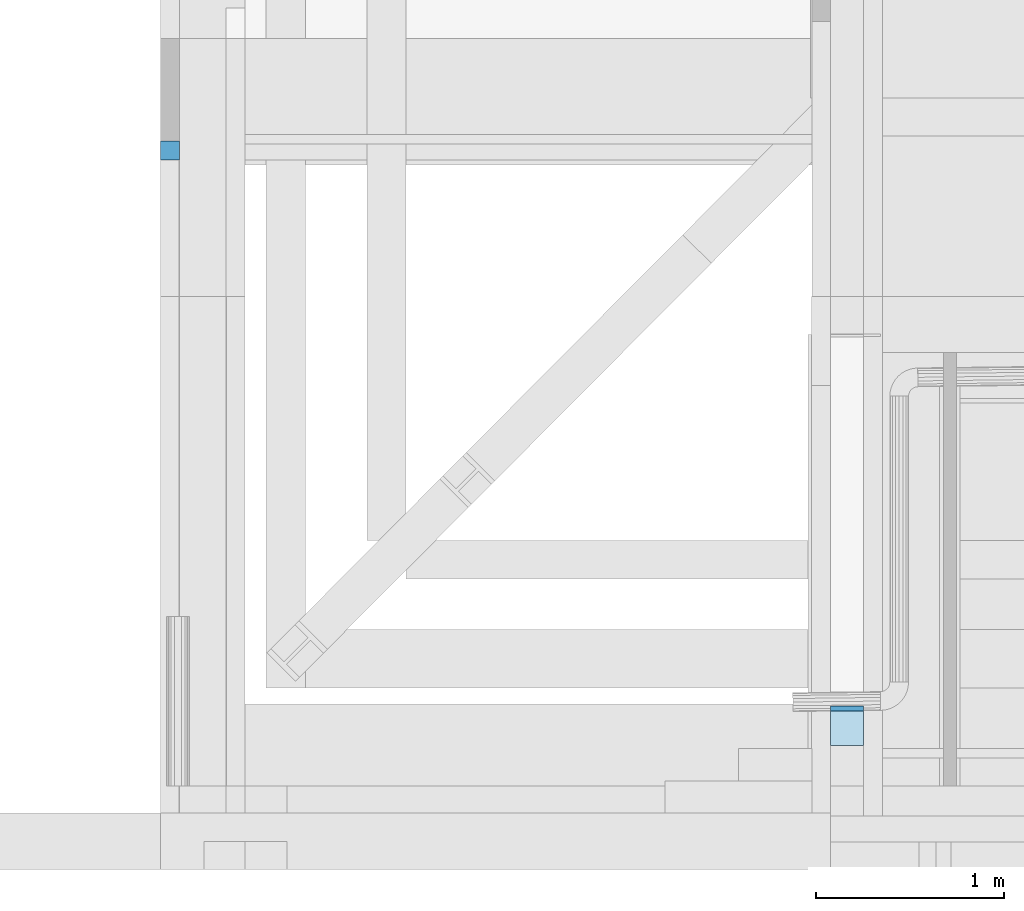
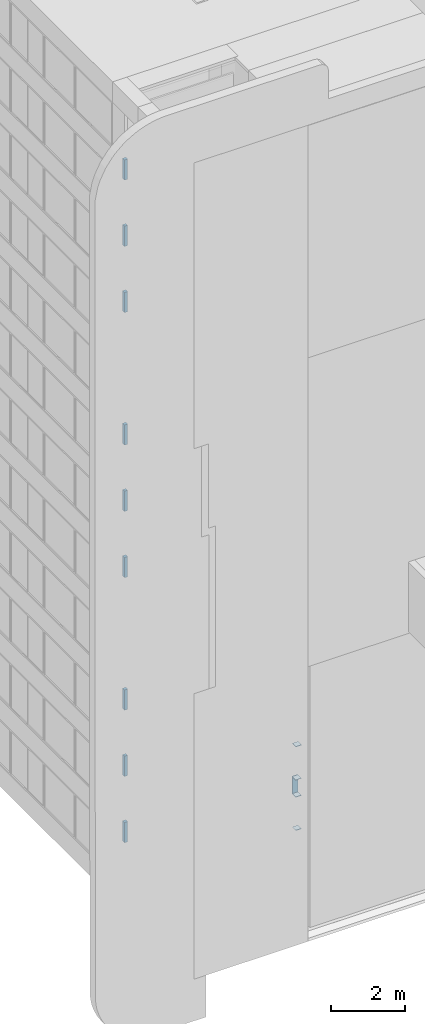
# One storey, part 299 of 583: 14 slabs.
"""IFC2X3 building model written with IfcOpenShell, lengths in metres."""

from ifc_helpers import new_model, entity, si_unit, converted_unit, derived_unit, money_unit, direction, frame, origin_with_axes, place, context, subcontext, project, spatial, faceted_brep, material, type_object, element, save


model = new_model("IFC2X3")

# Units and contexts
model_context = context("Model", 3, precision=1e-05, world=origin_with_axes(), true_north=direction((0.0, 1.0)))
body_context = subcontext(model_context, "Body", "Model", "MODEL_VIEW", scale=1.0)
ifc_project = project(units=[si_unit("LENGTHUNIT", "METRE"), si_unit("AREAUNIT", "SQUARE_METRE"), si_unit("VOLUMEUNIT", "CUBIC_METRE"), si_unit("ABSORBEDDOSEUNIT", "GRAY"), si_unit("AMOUNTOFSUBSTANCEUNIT", "MOLE"), si_unit("DOSEEQUIVALENTUNIT", "SIEVERT"), si_unit("ELECTRICCAPACITANCEUNIT", "FARAD"), si_unit("ELECTRICCHARGEUNIT", "COULOMB"), si_unit("ELECTRICCONDUCTANCEUNIT", "SIEMENS"), si_unit("ELECTRICCURRENTUNIT", "AMPERE"), si_unit("ELECTRICRESISTANCEUNIT", "OHM"), si_unit("ELECTRICVOLTAGEUNIT", "VOLT"), si_unit("ENERGYUNIT", "JOULE"), si_unit("FORCEUNIT", "NEWTON"), si_unit("FREQUENCYUNIT", "HERTZ"), si_unit("ILLUMINANCEUNIT", "LUX"), si_unit("INDUCTANCEUNIT", "HENRY"), si_unit("LUMINOUSFLUXUNIT", "LUMEN"), si_unit("LUMINOUSINTENSITYUNIT", "CANDELA"), si_unit("MAGNETICFLUXDENSITYUNIT", "TESLA"), si_unit("MAGNETICFLUXUNIT", "WEBER"), si_unit("MASSUNIT", "GRAM"), converted_unit("PLANEANGLEUNIT", "degree", entity("IfcReal", 0.0174532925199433), si_unit("PLANEANGLEUNIT", "RADIAN"), dimensions=[0, 0, 0, 0, 0, 0, 0]), si_unit("POWERUNIT", "WATT"), si_unit("PRESSUREUNIT", "PASCAL"), si_unit("RADIOACTIVITYUNIT", "BECQUEREL"), si_unit("SOLIDANGLEUNIT", "STERADIAN"), si_unit("THERMODYNAMICTEMPERATUREUNIT", "KELVIN"), si_unit("TIMEUNIT", "SECOND"), derived_unit("ACCELERATIONUNIT", [(si_unit("LENGTHUNIT", "METRE"), 1), (si_unit("TIMEUNIT", "SECOND"), -2)]), derived_unit("ANGULARVELOCITYUNIT", [(converted_unit("PLANEANGLEUNIT", "degree", entity("IfcReal", 0.0174532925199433), si_unit("PLANEANGLEUNIT", "RADIAN"), dimensions=[0, 0, 0, 0, 0, 0, 0]), 1), (si_unit("TIMEUNIT", "SECOND"), -1)]), derived_unit("CURVATUREUNIT", [(converted_unit("PLANEANGLEUNIT", "degree", entity("IfcReal", 0.0174532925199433), si_unit("PLANEANGLEUNIT", "RADIAN"), dimensions=[0, 0, 0, 0, 0, 0, 0]), 1), (si_unit("LENGTHUNIT", "METRE"), -1)]), derived_unit("DYNAMICVISCOSITYUNIT", [(si_unit("PRESSUREUNIT", "PASCAL"), 1), (si_unit("TIMEUNIT", "SECOND"), 1)]), derived_unit("HEATFLUXDENSITYUNIT", [(si_unit("POWERUNIT", "WATT"), 1), (si_unit("LENGTHUNIT", "METRE"), -2)]), derived_unit("HEATINGVALUEUNIT", [(si_unit("ENERGYUNIT", "JOULE"), 1), (si_unit("MASSUNIT", "GRAM"), -1)]), derived_unit("INTEGERCOUNTRATEUNIT", [(si_unit("TIMEUNIT", "SECOND"), -1)]), derived_unit("IONCONCENTRATIONUNIT", [(si_unit("MASSUNIT", "GRAM"), 1), (si_unit("VOLUMEUNIT", "CUBIC_METRE"), -1)]), derived_unit("ISOTHERMALMOISTURECAPACITYUNIT", [(si_unit("VOLUMEUNIT", "CUBIC_METRE"), 1), (si_unit("MASSUNIT", "GRAM"), -1)]), derived_unit("KINEMATICVISCOSITYUNIT", [(si_unit("AREAUNIT", "SQUARE_METRE"), 1), (si_unit("TIMEUNIT", "SECOND"), -1)]), derived_unit("LINEARFORCEUNIT", [(si_unit("FORCEUNIT", "NEWTON"), 1), (si_unit("LENGTHUNIT", "METRE"), -1)]), derived_unit("LINEARMOMENTUNIT", [(si_unit("FORCEUNIT", "NEWTON"), 1), (si_unit("LENGTHUNIT", "METRE"), -1)]), derived_unit("LINEARSTIFFNESSUNIT", [(si_unit("FORCEUNIT", "NEWTON"), 1), (si_unit("LENGTHUNIT", "METRE"), -1)]), derived_unit("LINEARVELOCITYUNIT", [(si_unit("LENGTHUNIT", "METRE"), 1), (si_unit("TIMEUNIT", "SECOND"), -1)]), derived_unit("LUMINOUSINTENSITYDISTRIBUTIONUNIT", [(si_unit("LUMINOUSINTENSITYUNIT", "CANDELA"), 1), (si_unit("LUMINOUSFLUXUNIT", "LUMEN"), -1)]), derived_unit("MASSDENSITYUNIT", [(si_unit("MASSUNIT", "GRAM"), 1), (si_unit("VOLUMEUNIT", "CUBIC_METRE"), -1)]), derived_unit("MASSFLOWRATEUNIT", [(si_unit("MASSUNIT", "GRAM"), 1), (si_unit("TIMEUNIT", "SECOND"), -1)]), derived_unit("MASSPERLENGTHUNIT", [(si_unit("MASSUNIT", "GRAM"), 1), (si_unit("LENGTHUNIT", "METRE"), -1)]), derived_unit("MODULUSOFELASTICITYUNIT", [(si_unit("FORCEUNIT", "NEWTON"), 1), (si_unit("AREAUNIT", "SQUARE_METRE"), -1)]), derived_unit("MODULUSOFLINEARSUBGRADEREACTIONUNIT", [(si_unit("FORCEUNIT", "NEWTON"), 1), (si_unit("LENGTHUNIT", "METRE"), -2)]), derived_unit("MODULUSOFROTATIONALSUBGRADEREACTIONUNIT", [(si_unit("FORCEUNIT", "NEWTON"), 1), (si_unit("LENGTHUNIT", "METRE"), 1)]), derived_unit("MODULUSOFSUBGRADEREACTIONUNIT", [(si_unit("FORCEUNIT", "NEWTON"), 1), (si_unit("VOLUMEUNIT", "CUBIC_METRE"), -1)]), derived_unit("MOISTUREDIFFUSIVITYUNIT", [(si_unit("VOLUMEUNIT", "CUBIC_METRE"), 1), (si_unit("TIMEUNIT", "SECOND"), -1)]), derived_unit("MOLECULARWEIGHTUNIT", [(si_unit("MASSUNIT", "GRAM"), 1), (si_unit("AMOUNTOFSUBSTANCEUNIT", "MOLE"), -1)]), derived_unit("PLANARFORCEUNIT", [(si_unit("FORCEUNIT", "NEWTON"), 1), (si_unit("LENGTHUNIT", "METRE"), -2)]), derived_unit("ROTATIONALFREQUENCYUNIT", [(si_unit("TIMEUNIT", "SECOND"), -1)]), derived_unit("ROTATIONALMASSUNIT", [(si_unit("MASSUNIT", "GRAM"), 1), (si_unit("LENGTHUNIT", "METRE"), 2)]), derived_unit("ROTATIONALSTIFFNESSUNIT", [(si_unit("FORCEUNIT", "NEWTON"), 1), (si_unit("LENGTHUNIT", "METRE"), 1), (converted_unit("PLANEANGLEUNIT", "degree", entity("IfcReal", 0.0174532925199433), si_unit("PLANEANGLEUNIT", "RADIAN"), dimensions=[0, 0, 0, 0, 0, 0, 0]), -1)]), derived_unit("SECTIONAREAINTEGRALUNIT", [(si_unit("LENGTHUNIT", "METRE"), 5)]), derived_unit("SECTIONMODULUSUNIT", [(si_unit("LENGTHUNIT", "METRE"), 3)]), derived_unit("SHEARMODULUSUNIT", [(si_unit("FORCEUNIT", "NEWTON"), 1), (si_unit("AREAUNIT", "SQUARE_METRE"), -1)]), derived_unit("SOUNDPOWERUNIT", [(si_unit("ENERGYUNIT", "JOULE"), 1), (si_unit("TIMEUNIT", "SECOND"), -1)]), derived_unit("SPECIFICHEATCAPACITYUNIT", [(si_unit("FORCEUNIT", "NEWTON"), 1), (si_unit("MASSUNIT", "GRAM"), -1), (si_unit("THERMODYNAMICTEMPERATUREUNIT", "KELVIN"), -1)]), derived_unit("TEMPERATUREGRADIENTUNIT", [(si_unit("THERMODYNAMICTEMPERATUREUNIT", "KELVIN"), 1), (si_unit("LENGTHUNIT", "METRE"), -1)]), derived_unit("THERMALADMITTANCEUNIT", [(si_unit("POWERUNIT", "WATT"), 1), (si_unit("AREAUNIT", "SQUARE_METRE"), -1), (si_unit("THERMODYNAMICTEMPERATUREUNIT", "KELVIN"), -1)]), derived_unit("THERMALCONDUCTANCEUNIT", [(si_unit("POWERUNIT", "WATT"), 1), (si_unit("LENGTHUNIT", "METRE"), -1), (si_unit("THERMODYNAMICTEMPERATUREUNIT", "KELVIN"), -1)]), derived_unit("THERMALEXPANSIONCOEFFICIENTUNIT", [(si_unit("THERMODYNAMICTEMPERATUREUNIT", "KELVIN"), -1)]), derived_unit("THERMALRESISTANCEUNIT", [(si_unit("AREAUNIT", "SQUARE_METRE"), 1), (si_unit("POWERUNIT", "WATT"), -1)]), derived_unit("THERMALTRANSMITTANCEUNIT", [(si_unit("POWERUNIT", "WATT"), 1), (si_unit("AREAUNIT", "SQUARE_METRE"), -1), (si_unit("THERMODYNAMICTEMPERATUREUNIT", "KELVIN"), -1)]), derived_unit("TORQUEUNIT", [(si_unit("FORCEUNIT", "NEWTON"), 1), (si_unit("LENGTHUNIT", "METRE"), 1)]), derived_unit("VAPORPERMEABILITYUNIT", [(si_unit("MASSUNIT", "GRAM"), 1), (si_unit("TIMEUNIT", "SECOND"), -1)]), derived_unit("VOLUMETRICFLOWRATEUNIT", [(si_unit("VOLUMEUNIT", "CUBIC_METRE"), 1), (si_unit("TIMEUNIT", "SECOND"), -1)]), derived_unit("WARPINGCONSTANTUNIT", [(si_unit("LENGTHUNIT", "METRE"), 6)]), derived_unit("WARPINGMOMENTUNIT", [(si_unit("FORCEUNIT", "NEWTON"), 1), (si_unit("LENGTHUNIT", "METRE"), 2)]), money_unit("GBP")], contexts=[model_context])

# Site, building, storey
site_placement = place(None, origin_with_axes())
site = spatial("IfcSite", under=ifc_project, at=site_placement, Name="Site", CompositionType="ELEMENT")
building_placement = place(site_placement, origin_with_axes())
building = spatial("IfcBuilding", under=site, at=building_placement, Name="Building01", CompositionType="ELEMENT")
storey_placement = place(building_placement, frame((0.0, 0.0, 20.78), z_axis=(0.0, 0.0, 1.0), x_axis=(1.0, 0.0, 0.0)))
storey = spatial("IfcBuildingStorey", under=building, at=storey_placement, Name="RL", CompositionType="ELEMENT", Elevation=20.78)

# Slabs
ifc_material = material(Name="A_BSUK_Slabs")
slab_type = type_object("IfcSlabType", Name="A-FloorsSlabs A_BSUK_Slabs", PredefinedType="FLOOR")
placement = place(storey_placement, frame((0.0, 0.0, -20.78), z_axis=(0.0, 0.0, 1.0), x_axis=(1.0, 0.0, 0.0)))
element("IfcSlab", 1, at=placement, inside=storey, type_object=slab_type, material=ifc_material, Name="A-FloorsSlabs A_BSUK_Slabs", ObjectType="CompoundSlabLeaf", context=body_context, shape_type="Brep", body=[
    faceted_brep([(3.559009, 0.398, 4.361681), (3.559009, 0.423, 4.361681), (3.733332, 0.423, 4.361681), (3.733332, 0.398, 4.361681), (3.559009, 0.398, 4.941681), (3.559009, 0.423, 4.941681), (3.733298, 0.398, 4.941681), (3.733298, 0.423, 4.941681)], [[[0, 1, 2, 3]], [[4, 5, 1, 0]], [[6, 7, 5, 4]], [[3, 2, 7, 6]], [[1, 5, 7, 2]], [[3, 6, 4, 0]]]),
])
element("IfcSlab", 2, at=placement, inside=storey, type_object=slab_type, material=ifc_material, Name="A-FloorsSlabs A_BSUK_Slabs", ObjectType="CompoundSlabLeaf", context=body_context, shape_type="Brep", body=[
    faceted_brep([(3.559009, 0.213, 4.376681), (3.559009, 0.213, 4.361681), (3.733332, 0.213, 4.361681), (3.733332, 0.213, 4.376681), (3.559032, 0.398, 4.376681), (3.559032, 0.398, 4.361681), (3.733321, 0.398, 4.376681), (3.733321, 0.398, 4.361681)], [[[0, 1, 2, 3]], [[4, 5, 1, 0]], [[6, 7, 5, 4]], [[3, 2, 7, 6]], [[1, 5, 7, 2]], [[3, 6, 4, 0]]]),
])
element("IfcSlab", 3, at=placement, inside=storey, type_object=slab_type, material=ifc_material, Name="A-FloorsSlabs A_BSUK_Slabs", ObjectType="CompoundSlabLeaf", context=body_context, shape_type="Brep", body=[
    faceted_brep([(3.733332, 0.213, 4.926681), (3.733332, 0.213, 4.941681), (3.559009, 0.213, 4.941681), (3.559009, 0.213, 4.926681), (3.733321, 0.398, 4.926681), (3.733321, 0.398, 4.941681), (3.559032, 0.398, 4.926681), (3.559032, 0.398, 4.941681)], [[[0, 1, 2, 3]], [[4, 5, 1, 0]], [[6, 7, 5, 4]], [[3, 2, 7, 6]], [[1, 5, 7, 2]], [[3, 6, 4, 0]]]),
])
element("IfcSlab", 4, at=placement, inside=storey, type_object=slab_type, material=ifc_material, Name="A-FloorsSlabs A_BSUK_Slabs", ObjectType="CompoundSlabLeaf", context=body_context, shape_type="Brep", body=[
    faceted_brep([(3.559009, 0.213, 3.276681), (3.559009, 0.213, 3.261681), (3.733332, 0.213, 3.261681), (3.733332, 0.213, 3.276681), (3.559032, 0.398, 3.276681), (3.559032, 0.398, 3.261681), (3.733321, 0.398, 3.276681), (3.733321, 0.398, 3.261681)], [[[0, 1, 2, 3]], [[4, 5, 1, 0]], [[6, 7, 5, 4]], [[3, 2, 7, 6]], [[1, 5, 7, 2]], [[3, 6, 4, 0]]]),
])
element("IfcSlab", 5, at=placement, inside=storey, type_object=slab_type, material=ifc_material, Name="A-FloorsSlabs A_BSUK_Slabs", ObjectType="CompoundSlabLeaf", context=body_context, shape_type="Brep", body=[
    faceted_brep([(3.559009, 0.213, 6.041681), (3.559009, 0.213, 6.026681), (3.733332, 0.213, 6.026681), (3.733332, 0.213, 6.041681), (3.559032, 0.398, 6.041681), (3.559032, 0.398, 6.026681), (3.733321, 0.398, 6.041681), (3.733321, 0.398, 6.026681)], [[[0, 1, 2, 3]], [[4, 5, 1, 0]], [[6, 7, 5, 4]], [[3, 2, 7, 6]], [[1, 5, 7, 2]], [[3, 6, 4, 0]]]),
])
element("IfcSlab", 6, at=placement, inside=storey, type_object=slab_type, material=ifc_material, Name="A-FloorsSlabs A_BSUK_Slabs", ObjectType="CompoundSlabLeaf", context=body_context, shape_type="Brep", body=[
    faceted_brep([(0.0, 3.325, 2.22), (0.0, 3.425, 2.22), (0.100329, 3.425, 2.22), (0.100329, 3.325, 2.22), (0.0, 3.325, 2.89), (0.0, 3.425, 2.89), (0.1, 3.325, 2.89), (0.1, 3.425, 2.89)], [[[0, 1, 2, 3]], [[4, 5, 1, 0]], [[6, 7, 5, 4]], [[3, 2, 7, 6]], [[1, 5, 7, 2]], [[3, 6, 4, 0]]]),
])
element("IfcSlab", 7, at=placement, inside=storey, type_object=slab_type, material=ifc_material, Name="A-FloorsSlabs A_BSUK_Slabs", ObjectType="CompoundSlabLeaf", context=body_context, shape_type="Brep", body=[
    faceted_brep([(0.0, 3.325, 4.41), (0.0, 3.425, 4.41), (0.100329, 3.425, 4.41), (0.100329, 3.325, 4.41), (0.0, 3.325, 5.08), (0.0, 3.425, 5.08), (0.1, 3.325, 5.08), (0.1, 3.425, 5.08)], [[[0, 1, 2, 3]], [[4, 5, 1, 0]], [[6, 7, 5, 4]], [[3, 2, 7, 6]], [[1, 5, 7, 2]], [[3, 6, 4, 0]]]),
])
element("IfcSlab", 8, at=placement, inside=storey, type_object=slab_type, material=ifc_material, Name="A-FloorsSlabs A_BSUK_Slabs", ObjectType="CompoundSlabLeaf", context=body_context, shape_type="Brep", body=[
    faceted_brep([(0.0, 3.325, 6.6), (0.0, 3.425, 6.6), (0.100329, 3.425, 6.6), (0.100329, 3.325, 6.6), (0.0, 3.325, 7.27), (0.0, 3.425, 7.27), (0.1, 3.325, 7.27), (0.1, 3.425, 7.27)], [[[0, 1, 2, 3]], [[4, 5, 1, 0]], [[6, 7, 5, 4]], [[3, 2, 7, 6]], [[1, 5, 7, 2]], [[3, 6, 4, 0]]]),
])
element("IfcSlab", 9, at=placement, inside=storey, type_object=slab_type, material=ifc_material, Name="A-FloorsSlabs A_BSUK_Slabs", ObjectType="CompoundSlabLeaf", context=body_context, shape_type="Brep", body=[
    faceted_brep([(0.0, 3.325, 10.98), (0.0, 3.425, 10.98), (0.100329, 3.425, 10.98), (0.100329, 3.325, 10.98), (0.0, 3.325, 11.65), (0.0, 3.425, 11.65), (0.1, 3.325, 11.65), (0.1, 3.425, 11.65)], [[[0, 1, 2, 3]], [[4, 5, 1, 0]], [[6, 7, 5, 4]], [[3, 2, 7, 6]], [[1, 5, 7, 2]], [[3, 6, 4, 0]]]),
])
element("IfcSlab", 10, at=placement, inside=storey, type_object=slab_type, material=ifc_material, Name="A-FloorsSlabs A_BSUK_Slabs", ObjectType="CompoundSlabLeaf", context=body_context, shape_type="Brep", body=[
    faceted_brep([(0.0, 3.325, 13.17), (0.0, 3.425, 13.17), (0.100329, 3.425, 13.17), (0.100329, 3.325, 13.17), (0.0, 3.325, 13.84), (0.0, 3.425, 13.84), (0.1, 3.325, 13.84), (0.1, 3.425, 13.84)], [[[0, 1, 2, 3]], [[4, 5, 1, 0]], [[6, 7, 5, 4]], [[3, 2, 7, 6]], [[1, 5, 7, 2]], [[3, 6, 4, 0]]]),
])
element("IfcSlab", 11, at=placement, inside=storey, type_object=slab_type, material=ifc_material, Name="A-FloorsSlabs A_BSUK_Slabs", ObjectType="CompoundSlabLeaf", context=body_context, shape_type="Brep", body=[
    faceted_brep([(0.0, 3.325, 15.36), (0.0, 3.425, 15.36), (0.100329, 3.425, 15.36), (0.100329, 3.325, 15.36), (0.0, 3.325, 16.03), (0.0, 3.425, 16.03), (0.1, 3.325, 16.03), (0.1, 3.425, 16.03)], [[[0, 1, 2, 3]], [[4, 5, 1, 0]], [[6, 7, 5, 4]], [[3, 2, 7, 6]], [[1, 5, 7, 2]], [[3, 6, 4, 0]]]),
])
element("IfcSlab", 12, at=placement, inside=storey, type_object=slab_type, material=ifc_material, Name="A-FloorsSlabs A_BSUK_Slabs", ObjectType="CompoundSlabLeaf", context=body_context, shape_type="Brep", body=[
    faceted_brep([(0.0, 3.325, 19.74), (0.0, 3.425, 19.74), (0.100329, 3.425, 19.74), (0.100329, 3.325, 19.74), (0.0, 3.325, 20.41), (0.0, 3.425, 20.41), (0.1, 3.325, 20.41), (0.1, 3.425, 20.41)], [[[0, 1, 2, 3]], [[4, 5, 1, 0]], [[6, 7, 5, 4]], [[3, 2, 7, 6]], [[1, 5, 7, 2]], [[3, 6, 4, 0]]]),
])
element("IfcSlab", 13, at=placement, inside=storey, type_object=slab_type, material=ifc_material, Name="A-FloorsSlabs A_BSUK_Slabs", ObjectType="CompoundSlabLeaf", context=body_context, shape_type="Brep", body=[
    faceted_brep([(0.0, 3.325, 21.93), (0.0, 3.425, 21.93), (0.100329, 3.425, 21.93), (0.100329, 3.325, 21.93), (0.0, 3.325, 22.6), (0.0, 3.425, 22.6), (0.1, 3.325, 22.6), (0.1, 3.425, 22.6)], [[[0, 1, 2, 3]], [[4, 5, 1, 0]], [[6, 7, 5, 4]], [[3, 2, 7, 6]], [[1, 5, 7, 2]], [[3, 6, 4, 0]]]),
])
element("IfcSlab", 14, at=placement, inside=storey, type_object=slab_type, material=ifc_material, Name="A-FloorsSlabs A_BSUK_Slabs", ObjectType="CompoundSlabLeaf", context=body_context, shape_type="Brep", body=[
    faceted_brep([(0.0, 3.325, 24.12), (0.0, 3.425, 24.12), (0.100329, 3.425, 24.12), (0.100329, 3.325, 24.12), (0.0, 3.325, 24.79), (0.0, 3.425, 24.79), (0.1, 3.325, 24.79), (0.1, 3.425, 24.79)], [[[0, 1, 2, 3]], [[4, 5, 1, 0]], [[6, 7, 5, 4]], [[3, 2, 7, 6]], [[1, 5, 7, 2]], [[3, 6, 4, 0]]]),
])

save(model, "model.ifc")
